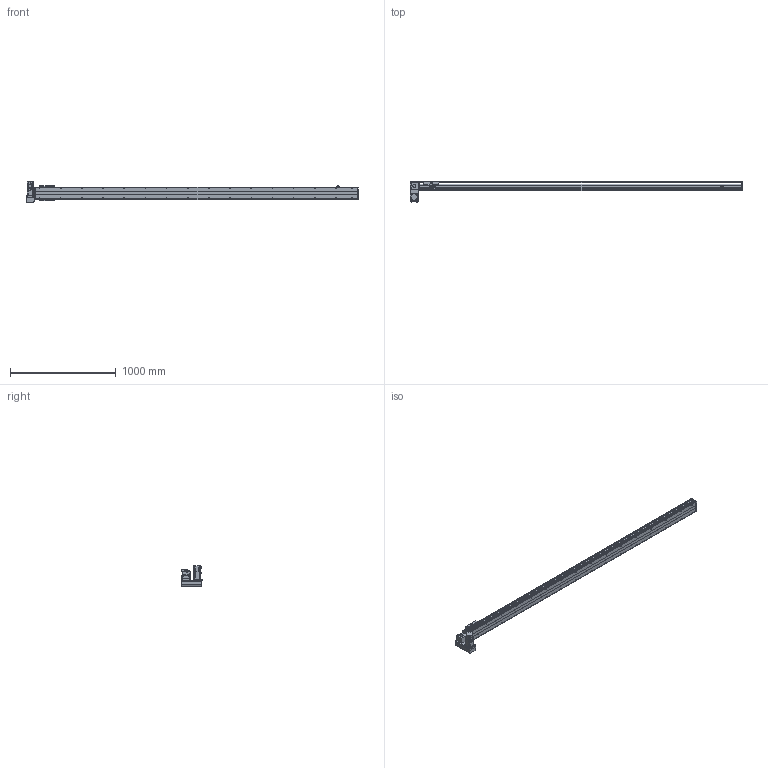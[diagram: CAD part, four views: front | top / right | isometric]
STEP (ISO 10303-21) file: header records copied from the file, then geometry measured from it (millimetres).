
FILE_DESCRIPTION( ( 'STEP AP214' ), '1' );
FILE_NAME( 'x:/temp/worker_6/temp/exporttempdir_3468_24_nzF85/format_0/PBS120-P40-S2750-LD-T40-C1-N(0).stp', '2022-06-08T08:14:44', ( 'License CC BY-ND 4.0' ), ( 'CADENAS' ), ' ', 'PARTsolutions', ' ' );
FILE_SCHEMA( ( 'AUTOMOTIVE_DESIGN { 1 0 10303 214 1 1 1 1 }' ) );
Length unit declared in the file: millimetre
Products named in the file (7): PBS120-P40-S2750-LD-T40-C1-N(0); _PBS120-S2750()_body; _PBS120T-LD_motors; _T40-p1; _PBS120_sliser; _PBS120_plant; _PBS120_sensor
Assembly tree (8 placements, depth 2):
  PBS120-P40-S2750-LD-T40-C1-N(0)
    _PBS120-S2750()_body
    _PBS120T-LD_motors
    _T40-p1
    _PBS120_sliser
    _PBS120_plant
    _PBS120_sensor  x3
Bounding box: 3136 x 196 x 189.7 mm (x, y, z)
Volume: 11657461.3 mm3; surface area: 2420523.8 mm2
Topology: 8 solids, 8 shells, 876 faces, 2236 edges, 1435 vertices
Faces by surface type: plane 565, cylinder 245, cone 64, torus 2
Full cylindrical faces by diameter (mm): 2.459 x6, 3.242 x4, 4 x2, 4.134 x4, 4.5 x10, 4.917 x36, 5.5 x11, 6 x2, 6.6 x1, 7 x2, 8.5 x4, 9 x4, 12 x1, 14 x1, 30 x2, 40 x1, 50 x2
Entity records: 28668 total; most frequent: DIRECTION 3932, CARTESIAN_POINT 3821, ORIENTED_EDGE 3598, EDGE_CURVE 1799, AXIS2_PLACEMENT_3D 1352, VERTEX_POINT 1241, LINE 1228, VECTOR 1228
